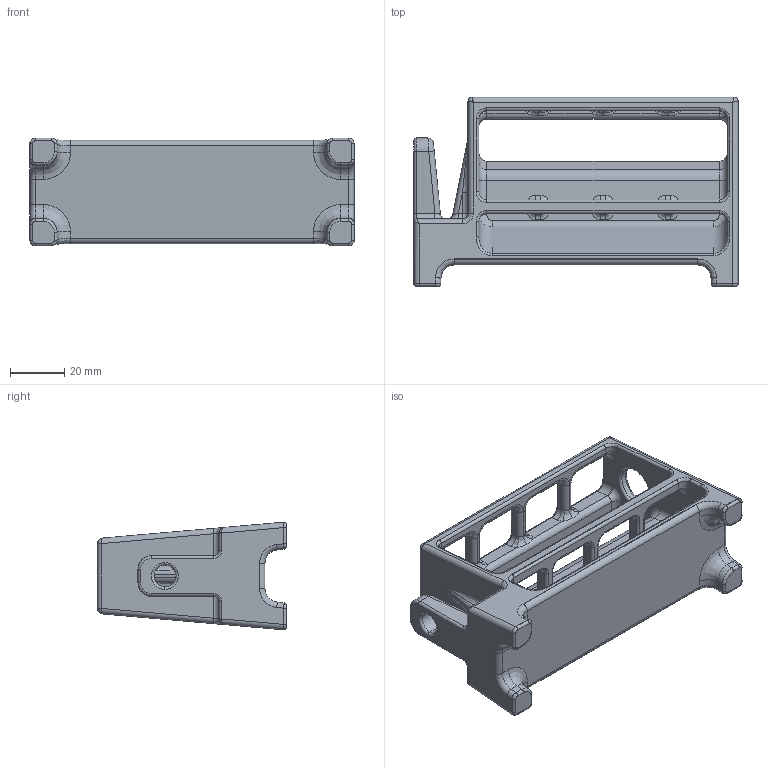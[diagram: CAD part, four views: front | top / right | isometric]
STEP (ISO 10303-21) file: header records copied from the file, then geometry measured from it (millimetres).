
FILE_DESCRIPTION (( 'STEP AP203' ), '1' );
FILE_NAME ('teeth-brash-holder_ver2.STEP', '2017-01-04T02:01:30', ( '' ), ( '' ), 'SwSTEP 2.0', 'SolidWorks 2016', '' );
FILE_SCHEMA (( 'CONFIG_CONTROL_DESIGN' ));
Length unit declared in the file: millimetre
Products named in the file (1): teeth-brash-holder_ver2
Bounding box: 120 x 70 x 39.82 mm (x, y, z)
Volume: 110121.3 mm3; surface area: 31176 mm2
Topology: 1 solids, 1 shells, 412 faces, 987 edges, 561 vertices
Faces by surface type: cylinder 204, bspline 120, plane 60, torus 26, sphere 2
Entity records: 14857 total; most frequent: CARTESIAN_POINT 6273, ORIENTED_EDGE 1958, DIRECTION 1670, EDGE_CURVE 979, AXIS2_PLACEMENT_3D 640, VERTEX_POINT 561, EDGE_LOOP 426, ADVANCED_FACE 412
